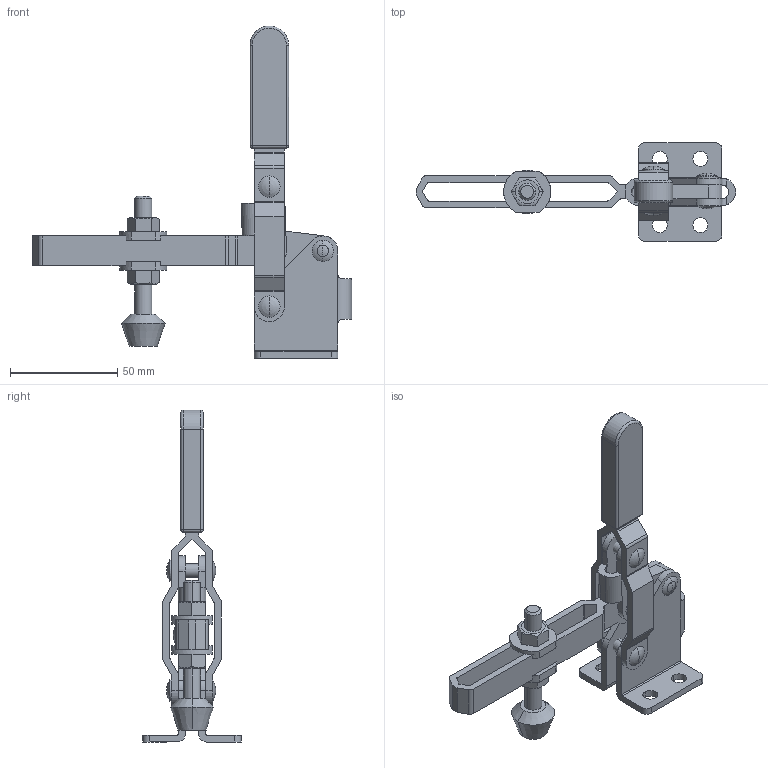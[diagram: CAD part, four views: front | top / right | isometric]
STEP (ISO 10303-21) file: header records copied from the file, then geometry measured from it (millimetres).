
FILE_DESCRIPTION(('CATIA V5 STEP Exchange'),'2;1');
FILE_NAME('D:\Model\toggle\toggle_standard\KJF_018_12F.stp','2005-06-24T04:56:34+00:00',('none'),('none'),'CATIA Version 5 Release 11 (IN-9)','CATIA V5 STEP AP203',' none');
FILE_SCHEMA(('CONFIG_CONTROL_DESIGN'));
Length unit declared in the file: millimetre
Products named in the file (1): Part1
Bounding box: 148.98 x 46 x 155 mm (x, y, z)
Volume: 63062.1 mm3; surface area: 40797.9 mm2
Topology: 13 solids, 13 shells, 281 faces, 727 edges, 460 vertices
Faces by surface type: plane 137, cylinder 104, sphere 24, cone 6, bspline 6, torus 4
Entity records: 8426 total; most frequent: CARTESIAN_POINT 1944, ORIENTED_EDGE 1414, DIRECTION 1110, EDGE_CURVE 707, AXIS2_PLACEMENT_3D 481, VERTEX_POINT 460, VECTOR 407, LINE 407
